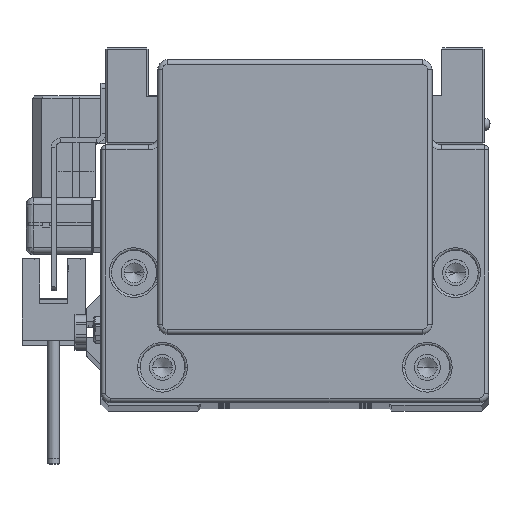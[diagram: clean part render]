
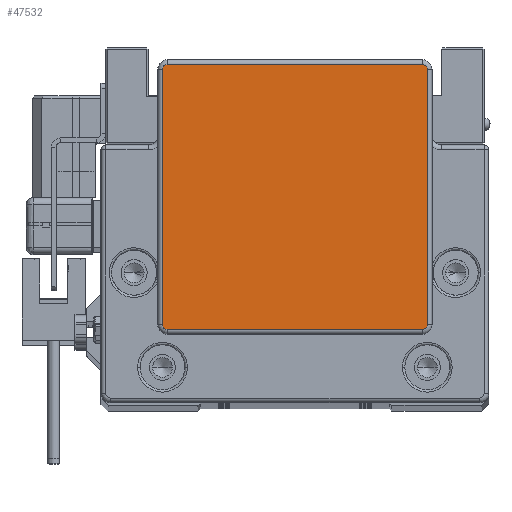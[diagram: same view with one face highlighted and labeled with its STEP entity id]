
A CAD part, top view. The second image highlights one B-rep face of the part: STEP entity #47532.
In plain terms, the highlighted planar face has unit normal (0, 0, 1).
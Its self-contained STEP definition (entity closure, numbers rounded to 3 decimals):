
#284 = EDGE_CURVE ( 'NONE', #4986, #38452, #39594, .T. ) ;
#2289 = CARTESIAN_POINT ( 'NONE',  ( -27., 34.25, 17. ) ) ;
#2787 = ORIENTED_EDGE ( 'NONE', *, *, #8275, .T. ) ;
#2843 = EDGE_CURVE ( 'NONE', #40171, #4986, #20428, .T. ) ;
#3109 = CIRCLE ( 'NONE', #24648, 1. ) ;
#3705 = VECTOR ( 'NONE', #18630, 1000. ) ;
#4986 = VERTEX_POINT ( 'NONE', #19552 ) ;
#7058 = VERTEX_POINT ( 'NONE', #12411 ) ;
#7156 = CARTESIAN_POINT ( 'NONE',  ( -28., -19.75, 17. ) ) ;
#7448 = CARTESIAN_POINT ( 'NONE',  ( -27., 35.25, 17. ) ) ;
#8275 = EDGE_CURVE ( 'NONE', #10937, #23090, #9441, .T. ) ;
#8687 = DIRECTION ( 'NONE',  ( 1., 0., 0. ) ) ;
#9030 = ORIENTED_EDGE ( 'NONE', *, *, #29520, .T. ) ;
#9441 = LINE ( 'NONE', #25272, #34891 ) ;
#9641 = AXIS2_PLACEMENT_3D ( 'NONE', #50331, #34744, #11378 ) ;
#9684 = VECTOR ( 'NONE', #8687, 1000. ) ;
#9894 = FACE_OUTER_BOUND ( 'NONE', #48532, .T. ) ;
#10937 = VERTEX_POINT ( 'NONE', #11152 ) ;
#11152 = CARTESIAN_POINT ( 'NONE',  ( 27., 35.25, 17. ) ) ;
#11378 = DIRECTION ( 'NONE',  ( 1., 0., 0. ) ) ;
#12411 = CARTESIAN_POINT ( 'NONE',  ( 28., -19.75, 17. ) ) ;
#12815 = CARTESIAN_POINT ( 'NONE',  ( 28., 34.25, 17. ) ) ;
#15310 = CARTESIAN_POINT ( 'NONE',  ( 27., 34.25, 17. ) ) ;
#16724 = DIRECTION ( 'NONE',  ( -1., 0., 0. ) ) ;
#17188 = DIRECTION ( 'NONE',  ( 0., 0., 1. ) ) ;
#18630 = DIRECTION ( 'NONE',  ( 0., 1., 0. ) ) ;
#19190 = DIRECTION ( 'NONE',  ( 0., 0., 1. ) ) ;
#19552 = CARTESIAN_POINT ( 'NONE',  ( -27., -20.75, 17. ) ) ;
#20037 = DIRECTION ( 'NONE',  ( 1., 0., 0. ) ) ;
#20428 = CIRCLE ( 'NONE', #9641, 1. ) ;
#20814 = ORIENTED_EDGE ( 'NONE', *, *, #50094, .T. ) ;
#22113 = VECTOR ( 'NONE', #39819, 1000. ) ;
#23090 = VERTEX_POINT ( 'NONE', #7448 ) ;
#24176 = CARTESIAN_POINT ( 'NONE',  ( -28., 34.25, 17. ) ) ;
#24648 = AXIS2_PLACEMENT_3D ( 'NONE', #43411, #47562, #20037 ) ;
#25234 = CIRCLE ( 'NONE', #50118, 1. ) ;
#25272 = CARTESIAN_POINT ( 'NONE',  ( -27., 35.25, 17. ) ) ;
#25660 = ORIENTED_EDGE ( 'NONE', *, *, #49753, .T. ) ;
#26168 = DIRECTION ( 'NONE',  ( 0., 0., 1. ) ) ;
#26990 = DIRECTION ( 'NONE',  ( 1., 0., 0. ) ) ;
#28409 = CARTESIAN_POINT ( 'NONE',  ( 27., -20.75, 17. ) ) ;
#29520 = EDGE_CURVE ( 'NONE', #23090, #51109, #42289, .T. ) ;
#30206 = VERTEX_POINT ( 'NONE', #12815 ) ;
#31506 = LINE ( 'NONE', #47359, #22113 ) ;
#31593 = ORIENTED_EDGE ( 'NONE', *, *, #284, .T. ) ;
#31623 = ORIENTED_EDGE ( 'NONE', *, *, #2843, .T. ) ;
#33354 = AXIS2_PLACEMENT_3D ( 'NONE', #41572, #17188, #37670 ) ;
#33971 = AXIS2_PLACEMENT_3D ( 'NONE', #2289, #26168, #42012 ) ;
#34462 = LINE ( 'NONE', #34715, #3705 ) ;
#34698 = ORIENTED_EDGE ( 'NONE', *, *, #44184, .T. ) ;
#34715 = CARTESIAN_POINT ( 'NONE',  ( 28., 34.25, 17. ) ) ;
#34744 = DIRECTION ( 'NONE',  ( 0., 0., 1. ) ) ;
#34891 = VECTOR ( 'NONE', #16724, 1000. ) ;
#37670 = DIRECTION ( 'NONE',  ( 1., 0., 0. ) ) ;
#38452 = VERTEX_POINT ( 'NONE', #42285 ) ;
#39594 = LINE ( 'NONE', #28409, #9684 ) ;
#39819 = DIRECTION ( 'NONE',  ( 0., -1., 0. ) ) ;
#40171 = VERTEX_POINT ( 'NONE', #7156 ) ;
#41506 = ORIENTED_EDGE ( 'NONE', *, *, #43888, .T. ) ;
#41572 = CARTESIAN_POINT ( 'NONE',  ( -27., -19.75, 17. ) ) ;
#42012 = DIRECTION ( 'NONE',  ( 1., 0., 0. ) ) ;
#42285 = CARTESIAN_POINT ( 'NONE',  ( 27., -20.75, 17. ) ) ;
#42289 = CIRCLE ( 'NONE', #33971, 1. ) ;
#43411 = CARTESIAN_POINT ( 'NONE',  ( 27., -19.75, 17. ) ) ;
#43888 = EDGE_CURVE ( 'NONE', #51109, #40171, #31506, .T. ) ;
#44184 = EDGE_CURVE ( 'NONE', #38452, #7058, #3109, .T. ) ;
#45980 = PLANE ( 'NONE',  #33354 ) ;
#47359 = CARTESIAN_POINT ( 'NONE',  ( -28., -19.75, 17. ) ) ;
#47532 = ADVANCED_FACE ( 'NONE', ( #9894 ), #45980, .T. ) ;
#47562 = DIRECTION ( 'NONE',  ( 0., 0., 1. ) ) ;
#48532 = EDGE_LOOP ( 'NONE', ( #2787, #9030, #41506, #31623, #31593, #34698, #20814, #25660 ) ) ;
#49753 = EDGE_CURVE ( 'NONE', #30206, #10937, #25234, .T. ) ;
#50094 = EDGE_CURVE ( 'NONE', #7058, #30206, #34462, .T. ) ;
#50118 = AXIS2_PLACEMENT_3D ( 'NONE', #15310, #19190, #26990 ) ;
#50331 = CARTESIAN_POINT ( 'NONE',  ( -27., -19.75, 17. ) ) ;
#51109 = VERTEX_POINT ( 'NONE', #24176 ) ;
